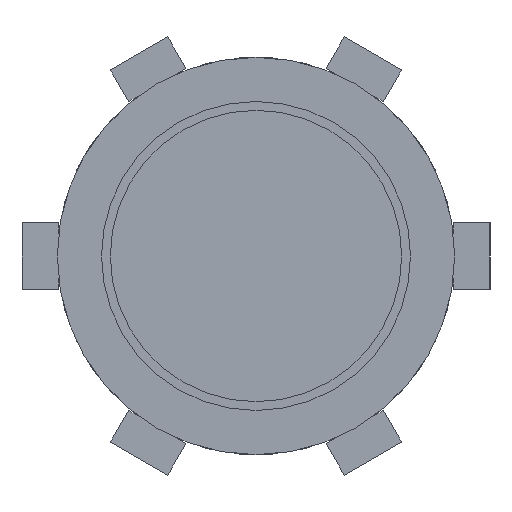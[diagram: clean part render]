
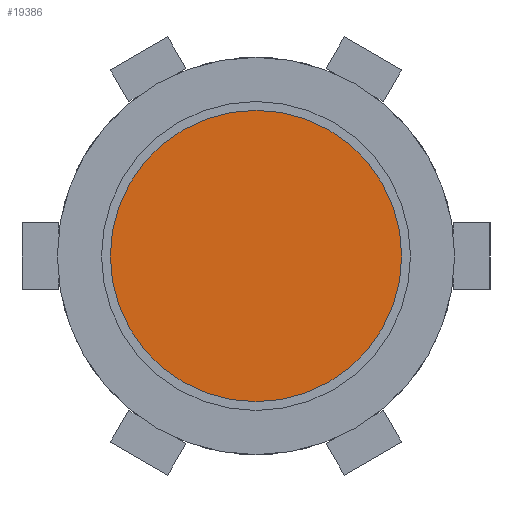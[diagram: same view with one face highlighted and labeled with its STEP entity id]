
A CAD part, left-side view. The second image highlights one B-rep face of the part: STEP entity #19386.
In plain terms, the highlighted planar face has unit normal (-1, 0, 0).
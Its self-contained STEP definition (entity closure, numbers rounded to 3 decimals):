
#19261 = CYLINDRICAL_SURFACE('',#19262,6.6);
#19262 = AXIS2_PLACEMENT_3D('',#19263,#19264,#19265);
#19263 = CARTESIAN_POINT('',(-64.07,-49.893,-53.918));
#19264 = DIRECTION('',(1.,0.,0.));
#19265 = DIRECTION('',(0.,1.,0.));
#19332 = VERTEX_POINT('',#19333);
#19333 = CARTESIAN_POINT('',(-64.,-43.293,-53.918));
#19356 = EDGE_CURVE('',#19332,#19332,#19357,.T.);
#19357 = SURFACE_CURVE('',#19358,(#19363,#19370),.PCURVE_S1.);
#19358 = CIRCLE('',#19359,6.6);
#19359 = AXIS2_PLACEMENT_3D('',#19360,#19361,#19362);
#19360 = CARTESIAN_POINT('',(-64.,-49.893,-53.918));
#19361 = DIRECTION('',(1.,0.,0.));
#19362 = DIRECTION('',(0.,1.,0.));
#19363 = PCURVE('',#19261,#19364);
#19364 = DEFINITIONAL_REPRESENTATION('',(#19365),#19369);
#19365 = LINE('',#19366,#19367);
#19366 = CARTESIAN_POINT('',(0.,0.07));
#19367 = VECTOR('',#19368,1.);
#19368 = DIRECTION('',(1.,0.));
#19369 = ( GEOMETRIC_REPRESENTATION_CONTEXT(2) 
PARAMETRIC_REPRESENTATION_CONTEXT() REPRESENTATION_CONTEXT('2D SPACE',''
  ) );
#19370 = PCURVE('',#19371,#19376);
#19371 = PLANE('',#19372);
#19372 = AXIS2_PLACEMENT_3D('',#19373,#19374,#19375);
#19373 = CARTESIAN_POINT('',(-64.,-49.893,-53.918));
#19374 = DIRECTION('',(1.,0.,0.));
#19375 = DIRECTION('',(0.,1.,0.));
#19376 = DEFINITIONAL_REPRESENTATION('',(#19377),#19381);
#19377 = CIRCLE('',#19378,6.6);
#19378 = AXIS2_PLACEMENT_2D('',#19379,#19380);
#19379 = CARTESIAN_POINT('',(0.,0.));
#19380 = DIRECTION('',(1.,0.));
#19381 = ( GEOMETRIC_REPRESENTATION_CONTEXT(2) 
PARAMETRIC_REPRESENTATION_CONTEXT() REPRESENTATION_CONTEXT('2D SPACE',''
  ) );
#19386 = ADVANCED_FACE('',(#19387),#19371,.F.);
#19387 = FACE_BOUND('',#19388,.F.);
#19388 = EDGE_LOOP('',(#19389));
#19389 = ORIENTED_EDGE('',*,*,#19356,.T.);
